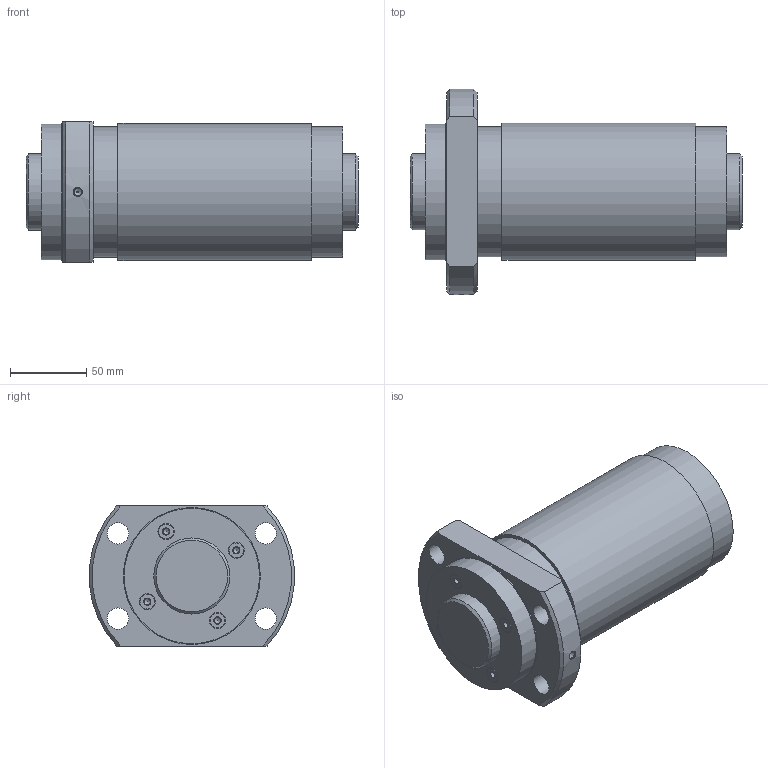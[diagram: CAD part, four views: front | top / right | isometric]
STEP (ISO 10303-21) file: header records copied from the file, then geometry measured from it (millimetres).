
FILE_DESCRIPTION(/* description */ ('STEP AP203'),/* implementation_level */ '2;1');
FILE_NAME(/* name */ 'WGF50100-3G1+218LC3_0_13_0_0',/* time_stamp */ '2025-01-16T06:28:47+01:00',/* author */ ('License CC BY-ND 4.0'),/* organization */ ('CADENAS'),/* preprocessor_version */ 'ST-DEVELOPER v19.3',/* originating_system */ 'PARTsolutions',/* authorisation */ ' ');
FILE_SCHEMA (('CONFIG_CONTROL_DESIGN'));
Length unit declared in the file: millimetre
Products named in the file (3): WGF50100-3G1+218LC3_0_13_0_0; 0130WGF50100-30Shaft; RR0130WGF50100-3Nut
Assembly tree (2 placements, depth 2):
  WGF50100-3G1+218LC3_0_13_0_0
    0130WGF50100-30Shaft
    RR0130WGF50100-3Nut
Bounding box: 218 x 134.77 x 92 mm (x, y, z)
Volume: 1359647.3 mm3; surface area: 152223.6 mm2
Topology: 2 solids, 2 shells, 65 faces, 132 edges, 84 vertices
Faces by surface type: cylinder 26, plane 19, cone 16, torus 4
Full cylindrical faces by diameter (mm): 4 x4, 4.917 x1, 10.5 x4, 10.7 x4, 14 x4, 50 x2, 85.5 x2, 89 x1, 90 x2
Entity records: 1583 total; most frequent: DIRECTION 276, CARTESIAN_POINT 276, ORIENTED_EDGE 168, FACE_BOUND 134, AXIS2_PLACEMENT_3D 134, EDGE_LOOP 130, EDGE_CURVE 84, VERTEX_POINT 80
